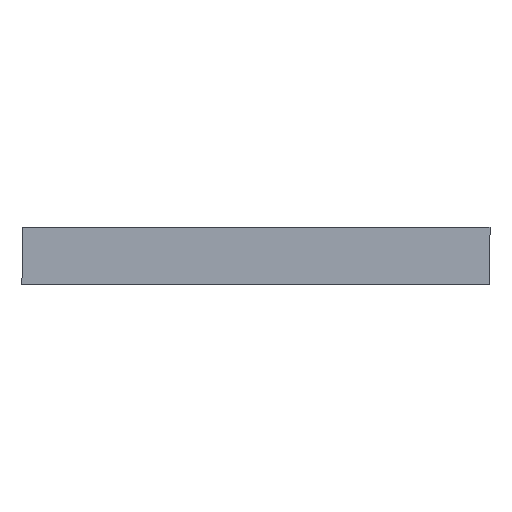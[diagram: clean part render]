
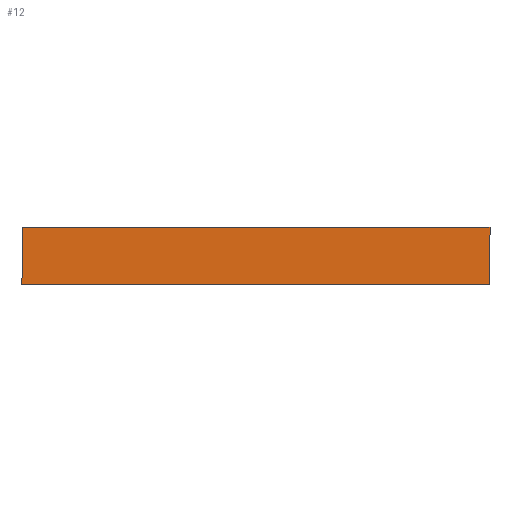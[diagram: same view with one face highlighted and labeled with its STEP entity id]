
A CAD part, left-side view. The second image highlights one B-rep face of the part: STEP entity #12.
In plain terms, the highlighted planar face has unit normal (-1, 0, 0).
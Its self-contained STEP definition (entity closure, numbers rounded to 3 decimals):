
#12 = ADVANCED_FACE ( 'NONE', ( #281 ), #589, .F. ) ;
#27 = EDGE_CURVE ( 'NONE', #697, #821, #271, .T. ) ;
#37 = EDGE_CURVE ( 'NONE', #766, #779, #255, .T. ) ;
#50 = EDGE_CURVE ( 'NONE', #779, #821, #234, .T. ) ;
#63 = AXIS2_PLACEMENT_3D ( 'NONE', #578, #832, #829 ) ;
#65 = EDGE_CURVE ( 'NONE', #766, #697, #214, .T. ) ;
#213 = VECTOR ( 'NONE', #716, 1000. ) ;
#214 = LINE ( 'NONE', #718, #213 ) ;
#233 = VECTOR ( 'NONE', #747, 1000. ) ;
#234 = LINE ( 'NONE', #748, #233 ) ;
#250 = VECTOR ( 'NONE', #771, 1000. ) ;
#255 = LINE ( 'NONE', #775, #250 ) ;
#264 = VECTOR ( 'NONE', #792, 1000. ) ;
#271 = LINE ( 'NONE', #799, #264 ) ;
#281 = FACE_OUTER_BOUND ( 'NONE', #299, .T. ) ;
#299 = EDGE_LOOP ( 'NONE', ( #389, #390, #391, #392 ) ) ;
#389 = ORIENTED_EDGE ( 'NONE', *, *, #50, .T. ) ;
#390 = ORIENTED_EDGE ( 'NONE', *, *, #27, .F. ) ;
#391 = ORIENTED_EDGE ( 'NONE', *, *, #65, .F. ) ;
#392 = ORIENTED_EDGE ( 'NONE', *, *, #37, .T. ) ;
#515 = CARTESIAN_POINT ( 'NONE',  ( -300., 0., 0. ) ) ;
#529 = CARTESIAN_POINT ( 'NONE',  ( -300., 529., 0. ) ) ;
#533 = CARTESIAN_POINT ( 'NONE',  ( -300., 529., 65. ) ) ;
#559 = CARTESIAN_POINT ( 'NONE',  ( -300., 0., 65. ) ) ;
#578 = CARTESIAN_POINT ( 'NONE',  ( -300., 0., 65. ) ) ;
#589 = PLANE ( 'NONE',  #63 ) ;
#697 = VERTEX_POINT ( 'NONE', #559 ) ;
#716 = DIRECTION ( 'NONE',  ( 0., -1., 0. ) ) ;
#718 = CARTESIAN_POINT ( 'NONE',  ( -300., 0., 65. ) ) ;
#747 = DIRECTION ( 'NONE',  ( 0., -1., 0. ) ) ;
#748 = CARTESIAN_POINT ( 'NONE',  ( -300., 0., 0. ) ) ;
#766 = VERTEX_POINT ( 'NONE', #533 ) ;
#771 = DIRECTION ( 'NONE',  ( 0., 0., -1. ) ) ;
#775 = CARTESIAN_POINT ( 'NONE',  ( -300., 529., 65. ) ) ;
#779 = VERTEX_POINT ( 'NONE', #529 ) ;
#792 = DIRECTION ( 'NONE',  ( 0., 0., -1. ) ) ;
#799 = CARTESIAN_POINT ( 'NONE',  ( -300., 0., 65. ) ) ;
#821 = VERTEX_POINT ( 'NONE', #515 ) ;
#829 = DIRECTION ( 'NONE',  ( 0., 1., 0. ) ) ;
#832 = DIRECTION ( 'NONE',  ( 1., 0., 0. ) ) ;
